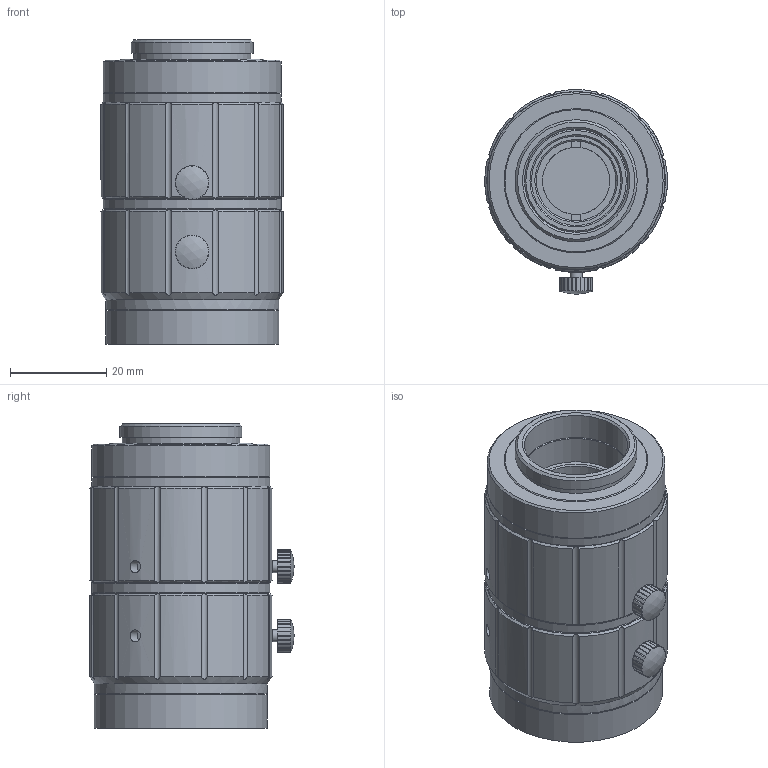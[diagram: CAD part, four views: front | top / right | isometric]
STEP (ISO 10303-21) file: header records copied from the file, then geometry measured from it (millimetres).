
FILE_DESCRIPTION(('STEP AP214'),'1');
FILE_NAME('WL0207-12MP.stp','2025-03-31T02:45:33',(' '),(' '),'Spatial InterOp 3D',' ',' ');
FILE_SCHEMA(('AUTOMOTIVE_DESIGN { 1 0 10303 214 1 1 1 1 }'));
Length unit declared in the file: metre
Products named in the file (2): WL0207-12MP; Component1
Assembly tree (1 placements, depth 2):
  WL0207-12MP
    Component1
Bounding box: 37.95 x 42.5 x 63.3 mm (x, y, z)
Volume: 44017.1 mm3; surface area: 16184.1 mm2
Topology: 1 solids, 2 shells, 247 faces, 639 edges, 425 vertices
Faces by surface type: cylinder 174, plane 55, cone 16, sphere 2
Full cylindrical faces by diameter (mm): 2.5 x6, 14 x1, 16.6 x1, 17.2 x1, 18.6 x1, 19 x1, 19.4 x1, 20 x1, 20.6 x1, 21.5 x3, 24.4 x1, 25.4 x1, 28.2 x1, 33 x1, 34 x1, 35 x3, 36 x2, 37 x3
Entity records: 11447 total; most frequent: CARTESIAN_POINT 3957, ORIENTED_EDGE 1148, DIRECTION 1054, EDGE_CURVE 574, AXIS2_PLACEMENT_3D 481, VERTEX_POINT 404, EDGE_LOOP 320, FACE_OUTER_BOUND 277
